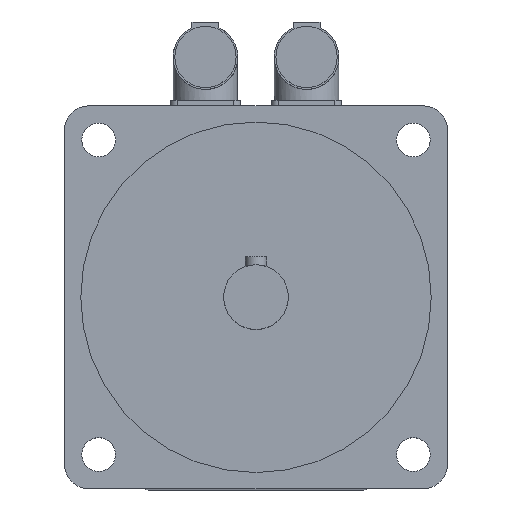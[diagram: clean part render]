
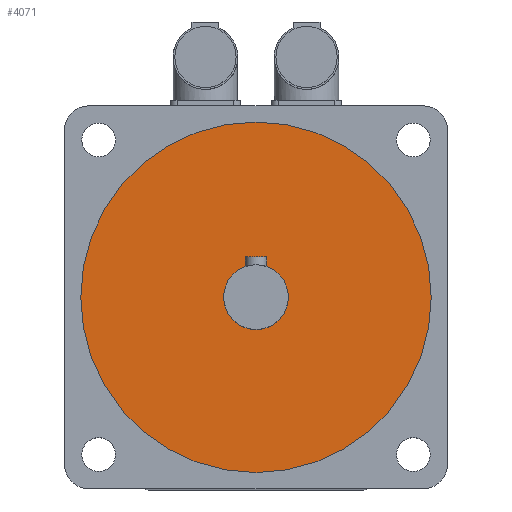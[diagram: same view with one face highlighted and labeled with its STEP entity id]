
A CAD part, top view. The second image highlights one B-rep face of the part: STEP entity #4071.
In plain terms, the highlighted planar face has unit normal (0, 0, 1).
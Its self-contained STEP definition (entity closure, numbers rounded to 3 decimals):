
#28=FACE_BOUND('',#533,.T.);
#79=PLANE('',#4432);
#278=FACE_OUTER_BOUND('',#532,.T.);
#532=EDGE_LOOP('',(#2985));
#533=EDGE_LOOP('',(#2986));
#1517=CIRCLE('',#4427,12.);
#1518=CIRCLE('',#4430,65.);
#1774=VERTEX_POINT('',#6532);
#1775=VERTEX_POINT('',#6536);
#2232=EDGE_CURVE('',#1774,#1774,#1517,.T.);
#2233=EDGE_CURVE('',#1775,#1775,#1518,.T.);
#2985=ORIENTED_EDGE('',*,*,#2233,.T.);
#2986=ORIENTED_EDGE('',*,*,#2232,.T.);
#4071=ADVANCED_FACE('',(#278,#28),#79,.F.);
#4427=AXIS2_PLACEMENT_3D('',#6533,#5205,#5206);
#4430=AXIS2_PLACEMENT_3D('',#6537,#5211,#5212);
#4432=AXIS2_PLACEMENT_3D('',#6540,#5215,#5216);
#5205=DIRECTION('center_axis',(0.,0.,
-1.));
#5206=DIRECTION('ref_axis',(-1.,0.,0.));
#5211=DIRECTION('center_axis',(0.,0.,
1.));
#5212=DIRECTION('ref_axis',(-1.,0.,0.));
#5215=DIRECTION('center_axis',(0.,0.,
-1.));
#5216=DIRECTION('ref_axis',(-1.,0.,0.));
#6532=CARTESIAN_POINT('',(12.,0.,251.5));
#6533=CARTESIAN_POINT('Origin',(0.,0.,
251.5));
#6536=CARTESIAN_POINT('',(65.,0.,251.5));
#6537=CARTESIAN_POINT('Origin',(0.,0.,
251.5));
#6540=CARTESIAN_POINT('Origin',(0.,0.,
251.5));
